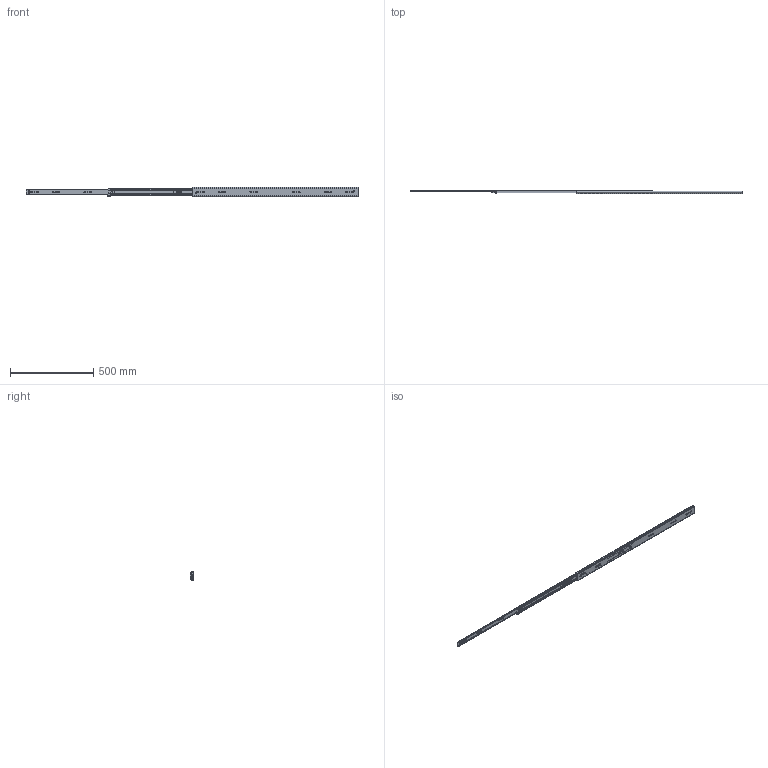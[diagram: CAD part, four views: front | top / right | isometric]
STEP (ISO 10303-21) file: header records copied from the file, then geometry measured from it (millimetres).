
FILE_DESCRIPTION((''),'2;1');
FILE_NAME('1057-C-40_ASM','2023-11-23T',('jishu015'),(''),'PRO/ENGINEER BY PARAMETRIC TECHNOLOGY CORPORATION, 2010280','PRO/ENGINEER BY PARAMETRIC TECHNOLOGY CORPORATION, 2010280','');
FILE_SCHEMA(('CONFIG_CONTROL_DESIGN'));
Products named in the file (19): KP-57-01WEIKE-31__________; MAODING-WAI__________; 1057DAZHUJIA-20GE1__________; 1057ZHUJIADANWEIJIAO123______; 1057-5-6GANZHU1__________; 1057DAZHUJIA-20GE_12__ASM; 1057-C-20-KE___________ASM; KP-57-01ZHONGGUI-36__; PEIJIAN-22__________; ZHUANJIAO112__________; LIUJIAO-DING11__________; MAODING-P__________; PEIJIAN-ZHONG___________ASM; 1057XIAOZHUJIA___20___________; 1057XIAOZHUJIA-20GE____________ASM; KP-57-01ZHONGGUI-36___ASM; KP-57-01NEIGUI-241__________; KP-57-01NEIGUI-241___________ASM; 1057-C-40_ASM
Assembly tree (160 placements, depth 4):
  1057-C-40_ASM
    1057-C-20-KE___________ASM
      KP-57-01WEIKE-31__________
      MAODING-WAI__________  x2
      1057DAZHUJIA-20GE_12__ASM
        1057DAZHUJIA-20GE1__________
        1057ZHUJIADANWEIJIAO123______  x2
        1057-5-6GANZHU1__________  x68
    KP-57-01ZHONGGUI-36___ASM
      KP-57-01ZHONGGUI-36__
      PEIJIAN-ZHONG___________ASM  x2
        PEIJIAN-22__________
        ZHUANJIAO112__________
        LIUJIAO-DING11__________
        MAODING-P__________
      MAODING-WAI__________  x2
      1057XIAOZHUJIA-20GE____________ASM
        1057XIAOZHUJIA___20___________
        1057-5-6GANZHU1__________  x68
        1057ZHUJIADANWEIJIAO123______  x2
    KP-57-01NEIGUI-241___________ASM
      KP-57-01NEIGUI-241__________
Bounding box: 2000 x 19.8 x 57.67 mm (x, y, z)
Volume: 433308.5 mm3; surface area: 505440.7 mm2
Topology: 157 solids, 157 shells, 4122 faces, 11462 edges, 7104 vertices
Faces by surface type: plane 1840, cylinder 1680, sphere 278, bspline 122, cone 114, torus 88
Entity records: 117862 total; most frequent: CARTESIAN_POINT 24791, DIRECTION 19780, ORIENTED_EDGE 19314, EDGE_CURVE 9657, AXIS2_PLACEMENT_3D 6836, VERTEX_POINT 6216, VECTOR 6108, LINE 6108
